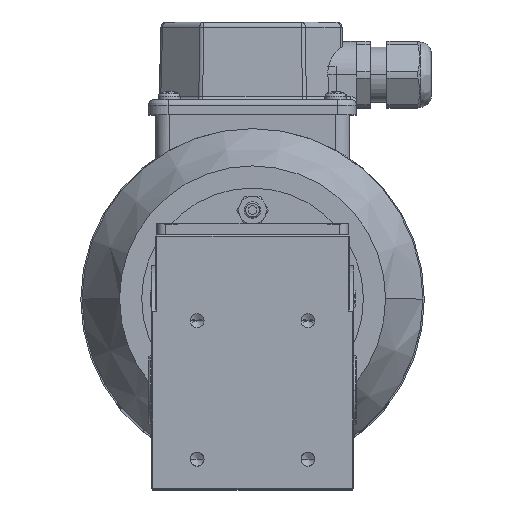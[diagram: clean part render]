
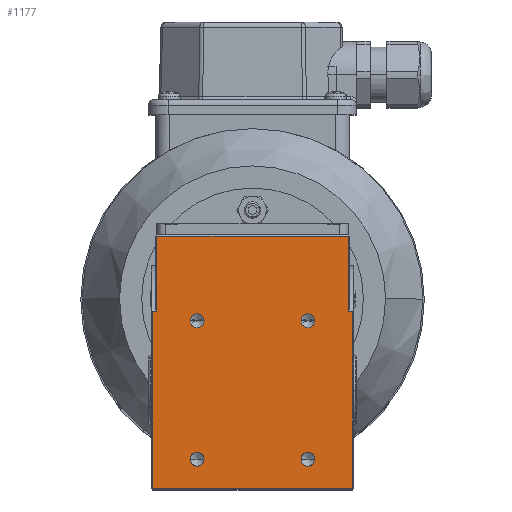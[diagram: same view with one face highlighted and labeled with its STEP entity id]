
A CAD part, top view. The second image highlights one B-rep face of the part: STEP entity #1177.
In plain terms, the highlighted planar face has unit normal (0, 0, 1).
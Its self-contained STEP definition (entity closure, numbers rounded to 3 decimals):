
#638 = DIRECTION ( 'NONE',  ( -1., 0., 0. ) ) ;
#982 = CARTESIAN_POINT ( 'NONE',  ( -42.5, 56., 35. ) ) ;
#1139 = VERTEX_POINT ( 'NONE', #24805 ) ;
#1177 = ADVANCED_FACE ( 'NONE', ( #19331, #1491, #10924, #9253, #18941 ), #22844, .F. ) ;
#1260 = DIRECTION ( 'NONE',  ( 0., 1., 0. ) ) ;
#1417 = CARTESIAN_POINT ( 'NONE',  ( 20., -25., 35. ) ) ;
#1491 = FACE_BOUND ( 'NONE', #3462, .T. ) ;
#1522 = EDGE_CURVE ( 'NONE', #13508, #11989, #19742, .T. ) ;
#1559 = DIRECTION ( 'NONE',  ( 0., 0., 1. ) ) ;
#1906 = CARTESIAN_POINT ( 'NONE',  ( -42.5, 55.5, 35. ) ) ;
#2350 = CARTESIAN_POINT ( 'NONE',  ( -20., -25., 35. ) ) ;
#2379 = EDGE_LOOP ( 'NONE', ( #10734, #7988, #22354, #9876, #18567, #12837, #24644, #15239 ) ) ;
#2387 = CARTESIAN_POINT ( 'NONE',  ( -36., 28.284, 35. ) ) ;
#2413 = CARTESIAN_POINT ( 'NONE',  ( -34.5, 56., 35. ) ) ;
#2489 = EDGE_CURVE ( 'NONE', #4745, #13508, #21031, .T. ) ;
#2550 = DIRECTION ( 'NONE',  ( 0., 0., 1. ) ) ;
#3087 = VERTEX_POINT ( 'NONE', #13394 ) ;
#3389 = ORIENTED_EDGE ( 'NONE', *, *, #20403, .F. ) ;
#3414 = CARTESIAN_POINT ( 'NONE',  ( -35., 28.284, 35. ) ) ;
#3445 = DIRECTION ( 'NONE',  ( 0., 0., 1. ) ) ;
#3462 = EDGE_LOOP ( 'NONE', ( #17322, #10076 ) ) ;
#3765 = DIRECTION ( 'NONE',  ( 0., -1., 0. ) ) ;
#3780 = EDGE_CURVE ( 'NONE', #11989, #16757, #14435, .T. ) ;
#4472 = EDGE_CURVE ( 'NONE', #21068, #21812, #6183, .T. ) ;
#4544 = VECTOR ( 'NONE', #22118, 1000. ) ;
#4709 = DIRECTION ( 'NONE',  ( 1., 0., 0. ) ) ;
#4745 = VERTEX_POINT ( 'NONE', #17484 ) ;
#4961 = AXIS2_PLACEMENT_3D ( 'NONE', #5228, #5356, #13171 ) ;
#5014 = VERTEX_POINT ( 'NONE', #16524 ) ;
#5202 = ORIENTED_EDGE ( 'NONE', *, *, #24007, .F. ) ;
#5228 = CARTESIAN_POINT ( 'NONE',  ( -20., -25., 35. ) ) ;
#5277 = CARTESIAN_POINT ( 'NONE',  ( -17.5, 25., 35. ) ) ;
#5310 = CARTESIAN_POINT ( 'NONE',  ( 34.5, 56., 35. ) ) ;
#5356 = DIRECTION ( 'NONE',  ( 0., 0., 1. ) ) ;
#5391 = VERTEX_POINT ( 'NONE', #25107 ) ;
#5575 = AXIS2_PLACEMENT_3D ( 'NONE', #7820, #11734, #15968 ) ;
#5695 = CARTESIAN_POINT ( 'NONE',  ( -34.5, 55.5, 35. ) ) ;
#5790 = DIRECTION ( 'NONE',  ( 0., 0., 1. ) ) ;
#6077 = CARTESIAN_POINT ( 'NONE',  ( -22.5, 25., 35. ) ) ;
#6135 = EDGE_LOOP ( 'NONE', ( #6489, #15337 ) ) ;
#6183 = LINE ( 'NONE', #8173, #6727 ) ;
#6489 = ORIENTED_EDGE ( 'NONE', *, *, #22727, .F. ) ;
#6505 = CARTESIAN_POINT ( 'NONE',  ( -20., 25., 35. ) ) ;
#6727 = VECTOR ( 'NONE', #10375, 1000. ) ;
#6776 = VECTOR ( 'NONE', #13481, 1000. ) ;
#6855 = CARTESIAN_POINT ( 'NONE',  ( 17.5, 25., 35. ) ) ;
#7000 = DIRECTION ( 'NONE',  ( 0., 0., -1. ) ) ;
#7157 = CIRCLE ( 'NONE', #12137, 2.5 ) ;
#7820 = CARTESIAN_POINT ( 'NONE',  ( -20., 25., 35. ) ) ;
#7941 = VECTOR ( 'NONE', #1260, 1000. ) ;
#7963 = AXIS2_PLACEMENT_3D ( 'NONE', #982, #7000, #21014 ) ;
#7981 = VERTEX_POINT ( 'NONE', #15513 ) ;
#7988 = ORIENTED_EDGE ( 'NONE', *, *, #19706, .T. ) ;
#8130 = CIRCLE ( 'NONE', #15609, 2.5 ) ;
#8173 = CARTESIAN_POINT ( 'NONE',  ( -42.5, -35.5, 35. ) ) ;
#8787 = AXIS2_PLACEMENT_3D ( 'NONE', #6505, #2550, #10570 ) ;
#8848 = VECTOR ( 'NONE', #12607, 1000. ) ;
#8975 = VERTEX_POINT ( 'NONE', #5277 ) ;
#9253 = FACE_BOUND ( 'NONE', #23928, .T. ) ;
#9617 = LINE ( 'NONE', #3414, #6776 ) ;
#9649 = DIRECTION ( 'NONE',  ( 1., 0., 0. ) ) ;
#9876 = ORIENTED_EDGE ( 'NONE', *, *, #21855, .T. ) ;
#9993 = EDGE_CURVE ( 'NONE', #3087, #1139, #14887, .T. ) ;
#10025 = CIRCLE ( 'NONE', #4961, 2.5 ) ;
#10076 = ORIENTED_EDGE ( 'NONE', *, *, #17111, .F. ) ;
#10101 = LINE ( 'NONE', #14086, #4544 ) ;
#10220 = ORIENTED_EDGE ( 'NONE', *, *, #9993, .F. ) ;
#10375 = DIRECTION ( 'NONE',  ( 1., 0., 0. ) ) ;
#10453 = EDGE_LOOP ( 'NONE', ( #3389, #5202 ) ) ;
#10536 = LINE ( 'NONE', #24280, #8848 ) ;
#10570 = DIRECTION ( 'NONE',  ( 1., 0., 0. ) ) ;
#10578 = LINE ( 'NONE', #18582, #16562 ) ;
#10734 = ORIENTED_EDGE ( 'NONE', *, *, #13685, .F. ) ;
#10924 = FACE_BOUND ( 'NONE', #6135, .T. ) ;
#11301 = AXIS2_PLACEMENT_3D ( 'NONE', #22240, #5790, #21763 ) ;
#11569 = EDGE_CURVE ( 'NONE', #1139, #3087, #10025, .T. ) ;
#11734 = DIRECTION ( 'NONE',  ( 0., 0., 1. ) ) ;
#11757 = CARTESIAN_POINT ( 'NONE',  ( 22.5, 25., 35. ) ) ;
#11772 = VERTEX_POINT ( 'NONE', #2387 ) ;
#11989 = VERTEX_POINT ( 'NONE', #5695 ) ;
#12111 = CARTESIAN_POINT ( 'NONE',  ( -34.5, 28.284, 35. ) ) ;
#12137 = AXIS2_PLACEMENT_3D ( 'NONE', #21292, #3445, #9649 ) ;
#12607 = DIRECTION ( 'NONE',  ( 0., 1., 0. ) ) ;
#12837 = ORIENTED_EDGE ( 'NONE', *, *, #2489, .T. ) ;
#12932 = ORIENTED_EDGE ( 'NONE', *, *, #11569, .F. ) ;
#13171 = DIRECTION ( 'NONE',  ( 1., 0., 0. ) ) ;
#13394 = CARTESIAN_POINT ( 'NONE',  ( -22.5, -25., 35. ) ) ;
#13470 = EDGE_CURVE ( 'NONE', #7981, #5014, #7157, .T. ) ;
#13481 = DIRECTION ( 'NONE',  ( 1., 0., 0. ) ) ;
#13508 = VERTEX_POINT ( 'NONE', #19595 ) ;
#13601 = VERTEX_POINT ( 'NONE', #6077 ) ;
#13685 = EDGE_CURVE ( 'NONE', #11772, #16757, #9617, .T. ) ;
#14086 = CARTESIAN_POINT ( 'NONE',  ( -36., 56., 35. ) ) ;
#14435 = LINE ( 'NONE', #2413, #18730 ) ;
#14887 = CIRCLE ( 'NONE', #19058, 2.5 ) ;
#15239 = ORIENTED_EDGE ( 'NONE', *, *, #3780, .T. ) ;
#15337 = ORIENTED_EDGE ( 'NONE', *, *, #13470, .F. ) ;
#15347 = DIRECTION ( 'NONE',  ( 0., 0., 1. ) ) ;
#15372 = CIRCLE ( 'NONE', #11301, 2.5 ) ;
#15382 = DIRECTION ( 'NONE',  ( 1., 0., 0. ) ) ;
#15410 = EDGE_CURVE ( 'NONE', #22835, #19056, #8130, .T. ) ;
#15479 = AXIS2_PLACEMENT_3D ( 'NONE', #1417, #15347, #23281 ) ;
#15513 = CARTESIAN_POINT ( 'NONE',  ( 17.5, -25., 35. ) ) ;
#15609 = AXIS2_PLACEMENT_3D ( 'NONE', #19407, #1559, #15382 ) ;
#15968 = DIRECTION ( 'NONE',  ( 1., 0., 0. ) ) ;
#16524 = CARTESIAN_POINT ( 'NONE',  ( 22.5, -25., 35. ) ) ;
#16562 = VECTOR ( 'NONE', #638, 1000. ) ;
#16757 = VERTEX_POINT ( 'NONE', #12111 ) ;
#17111 = EDGE_CURVE ( 'NONE', #19056, #22835, #15372, .T. ) ;
#17322 = ORIENTED_EDGE ( 'NONE', *, *, #15410, .F. ) ;
#17484 = CARTESIAN_POINT ( 'NONE',  ( 34.5, 28.284, 35. ) ) ;
#17792 = DIRECTION ( 'NONE',  ( -1., 0., 0. ) ) ;
#17856 = CARTESIAN_POINT ( 'NONE',  ( -36., -35.5, 35. ) ) ;
#18567 = ORIENTED_EDGE ( 'NONE', *, *, #18637, .T. ) ;
#18582 = CARTESIAN_POINT ( 'NONE',  ( 35., 28.284, 35. ) ) ;
#18637 = EDGE_CURVE ( 'NONE', #5391, #4745, #10578, .T. ) ;
#18730 = VECTOR ( 'NONE', #3765, 1000. ) ;
#18941 = FACE_OUTER_BOUND ( 'NONE', #2379, .T. ) ;
#19056 = VERTEX_POINT ( 'NONE', #6855 ) ;
#19058 = AXIS2_PLACEMENT_3D ( 'NONE', #2350, #22153, #4709 ) ;
#19331 = FACE_BOUND ( 'NONE', #10453, .T. ) ;
#19407 = CARTESIAN_POINT ( 'NONE',  ( 20., 25., 35. ) ) ;
#19595 = CARTESIAN_POINT ( 'NONE',  ( 34.5, 55.5, 35. ) ) ;
#19706 = EDGE_CURVE ( 'NONE', #11772, #21068, #10101, .T. ) ;
#19742 = LINE ( 'NONE', #1906, #20772 ) ;
#20403 = EDGE_CURVE ( 'NONE', #8975, #13601, #24508, .T. ) ;
#20478 = CIRCLE ( 'NONE', #5575, 2.5 ) ;
#20772 = VECTOR ( 'NONE', #17792, 1000. ) ;
#21014 = DIRECTION ( 'NONE',  ( 0., 1., 0. ) ) ;
#21031 = LINE ( 'NONE', #5310, #7941 ) ;
#21068 = VERTEX_POINT ( 'NONE', #17856 ) ;
#21292 = CARTESIAN_POINT ( 'NONE',  ( 20., -25., 35. ) ) ;
#21763 = DIRECTION ( 'NONE',  ( 1., 0., 0. ) ) ;
#21812 = VERTEX_POINT ( 'NONE', #23658 ) ;
#21855 = EDGE_CURVE ( 'NONE', #21812, #5391, #10536, .T. ) ;
#22118 = DIRECTION ( 'NONE',  ( 0., -1., 0. ) ) ;
#22153 = DIRECTION ( 'NONE',  ( 0., 0., 1. ) ) ;
#22240 = CARTESIAN_POINT ( 'NONE',  ( 20., 25., 35. ) ) ;
#22354 = ORIENTED_EDGE ( 'NONE', *, *, #4472, .T. ) ;
#22727 = EDGE_CURVE ( 'NONE', #5014, #7981, #23368, .T. ) ;
#22835 = VERTEX_POINT ( 'NONE', #11757 ) ;
#22844 = PLANE ( 'NONE',  #7963 ) ;
#23281 = DIRECTION ( 'NONE',  ( 1., 0., 0. ) ) ;
#23368 = CIRCLE ( 'NONE', #15479, 2.5 ) ;
#23658 = CARTESIAN_POINT ( 'NONE',  ( 36., -35.5, 35. ) ) ;
#23928 = EDGE_LOOP ( 'NONE', ( #12932, #10220 ) ) ;
#24007 = EDGE_CURVE ( 'NONE', #13601, #8975, #20478, .T. ) ;
#24280 = CARTESIAN_POINT ( 'NONE',  ( 36., 56., 35. ) ) ;
#24508 = CIRCLE ( 'NONE', #8787, 2.5 ) ;
#24644 = ORIENTED_EDGE ( 'NONE', *, *, #1522, .T. ) ;
#24805 = CARTESIAN_POINT ( 'NONE',  ( -17.5, -25., 35. ) ) ;
#25107 = CARTESIAN_POINT ( 'NONE',  ( 36., 28.284, 35. ) ) ;
